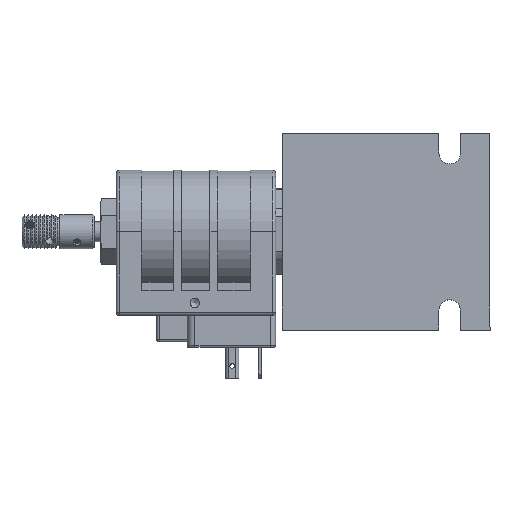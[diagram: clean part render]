
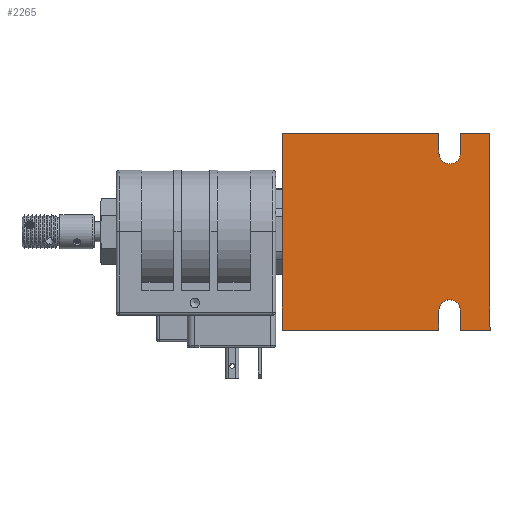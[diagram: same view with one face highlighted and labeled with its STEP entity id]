
A CAD part, top view. The second image highlights one B-rep face of the part: STEP entity #2265.
In plain terms, the highlighted planar face has unit normal (0, 0, 1) as drawn and (0, 1, 0) by its records, which use the part's own axes.
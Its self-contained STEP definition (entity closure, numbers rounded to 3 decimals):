
#2265 = ADVANCED_FACE( '', ( #4923 ), #4924, .F. );
#4923 = FACE_OUTER_BOUND( '', #8223, .T. );
#4924 = PLANE( '', #8224 );
#8223 = EDGE_LOOP( '', ( #14010, #14011, #14012, #14013, #14014, #14015, #14016, #14017, #14018, #14019, #14020, #14021 ) );
#8224 = AXIS2_PLACEMENT_3D( '', #14022, #14023, #14024 );
#14010 = ORIENTED_EDGE( '', *, *, #20921, .T. );
#14011 = ORIENTED_EDGE( '', *, *, #20922, .T. );
#14012 = ORIENTED_EDGE( '', *, *, #20733, .T. );
#14013 = ORIENTED_EDGE( '', *, *, #20923, .T. );
#14014 = ORIENTED_EDGE( '', *, *, #19704, .T. );
#14015 = ORIENTED_EDGE( '', *, *, #20924, .T. );
#14016 = ORIENTED_EDGE( '', *, *, #19305, .T. );
#14017 = ORIENTED_EDGE( '', *, *, #18943, .T. );
#14018 = ORIENTED_EDGE( '', *, *, #20032, .T. );
#14019 = ORIENTED_EDGE( '', *, *, #20925, .T. );
#14020 = ORIENTED_EDGE( '', *, *, #20926, .T. );
#14021 = ORIENTED_EDGE( '', *, *, #20927, .T. );
#14022 = CARTESIAN_POINT( '', ( 57.2, 38.1, -54. ) );
#14023 = DIRECTION( '', ( 0., -1., 0. ) );
#14024 = DIRECTION( '', ( 0., 0., -1. ) );
#18943 = EDGE_CURVE( '', #22180, #22178, #22181, .T. );
#19305 = EDGE_CURVE( '', #22822, #22180, #22823, .T. );
#19704 = EDGE_CURVE( '', #23500, #23498, #23501, .T. );
#20032 = EDGE_CURVE( '', #22178, #24043, #24045, .T. );
#20733 = EDGE_CURVE( '', #25133, #25131, #25134, .T. );
#20921 = EDGE_CURVE( '', #25411, #25412, #25413, .T. );
#20922 = EDGE_CURVE( '', #25412, #25133, #25414, .T. );
#20923 = EDGE_CURVE( '', #25131, #23500, #25415, .T. );
#20924 = EDGE_CURVE( '', #23498, #22822, #25416, .T. );
#20925 = EDGE_CURVE( '', #24043, #25417, #25418, .T. );
#20926 = EDGE_CURVE( '', #25417, #25419, #25420, .T. );
#20927 = EDGE_CURVE( '', #25419, #25411, #25421, .T. );
#22178 = VERTEX_POINT( '', #26968 );
#22180 = VERTEX_POINT( '', #26971 );
#22181 = LINE( '', #26972, #26973 );
#22822 = VERTEX_POINT( '', #28037 );
#22823 = LINE( '', #28038, #28039 );
#23498 = VERTEX_POINT( '', #29345 );
#23500 = VERTEX_POINT( '', #29348 );
#23501 = CIRCLE( '', #29349, 3.5 );
#24043 = VERTEX_POINT( '', #30298 );
#24045 = LINE( '', #30301, #30302 );
#25131 = VERTEX_POINT( '', #32350 );
#25133 = VERTEX_POINT( '', #32353 );
#25134 = LINE( '', #32354, #32355 );
#25411 = VERTEX_POINT( '', #32872 );
#25412 = VERTEX_POINT( '', #32873 );
#25413 = LINE( '', #32874, #32875 );
#25414 = LINE( '', #32876, #32877 );
#25415 = LINE( '', #32878, #32879 );
#25416 = LINE( '', #32880, #32881 );
#25417 = VERTEX_POINT( '', #32882 );
#25418 = LINE( '', #32883, #32884 );
#25419 = VERTEX_POINT( '', #32885 );
#25420 = CIRCLE( '', #32886, 3.5 );
#25421 = LINE( '', #32887, #32888 );
#26968 = CARTESIAN_POINT( '', ( 0., 38.1, -67. ) );
#26971 = CARTESIAN_POINT( '', ( 63.5, 38.1, -67. ) );
#26972 = CARTESIAN_POINT( '', ( 63.5, 38.1, -67. ) );
#26973 = VECTOR( '', #35556, 1000. );
#28037 = CARTESIAN_POINT( '', ( 63.5, 38.1, -57.5 ) );
#28038 = CARTESIAN_POINT( '', ( 63.5, 38.1, -57.5 ) );
#28039 = VECTOR( '', #35850, 1000. );
#29345 = CARTESIAN_POINT( '', ( 57.2, 38.1, -57.5 ) );
#29348 = CARTESIAN_POINT( '', ( 57.2, 38.1, -50.5 ) );
#29349 = AXIS2_PLACEMENT_3D( '', #36189, #36190, #36191 );
#30298 = CARTESIAN_POINT( '', ( 0., 38.1, -57.5 ) );
#30301 = CARTESIAN_POINT( '', ( 0., 38.1, -67. ) );
#30302 = VECTOR( '', #36472, 1000. );
#32350 = CARTESIAN_POINT( '', ( 63.5, 38.1, -50.5 ) );
#32353 = CARTESIAN_POINT( '', ( 63.5, 38.1, 0. ) );
#32354 = CARTESIAN_POINT( '', ( 63.5, 38.1, 0. ) );
#32355 = VECTOR( '', #37041, 1000. );
#32872 = CARTESIAN_POINT( '', ( 0., 38.1, -50.5 ) );
#32873 = CARTESIAN_POINT( '', ( 0., 38.1, 0. ) );
#32874 = CARTESIAN_POINT( '', ( 0., 38.1, -50.5 ) );
#32875 = VECTOR( '', #37121, 1000. );
#32876 = CARTESIAN_POINT( '', ( 0., 38.1, 0. ) );
#32877 = VECTOR( '', #37122, 1000. );
#32878 = CARTESIAN_POINT( '', ( 57.2, 38.1, -50.5 ) );
#32879 = VECTOR( '', #37123, 1000. );
#32880 = CARTESIAN_POINT( '', ( 57.2, 38.1, -57.5 ) );
#32881 = VECTOR( '', #37124, 1000. );
#32882 = CARTESIAN_POINT( '', ( 6.4, 38.1, -57.5 ) );
#32883 = CARTESIAN_POINT( '', ( 6.4, 38.1, -57.5 ) );
#32884 = VECTOR( '', #37125, 1000. );
#32885 = CARTESIAN_POINT( '', ( 6.4, 38.1, -50.5 ) );
#32886 = AXIS2_PLACEMENT_3D( '', #37126, #37127, #37128 );
#32887 = CARTESIAN_POINT( '', ( 6.4, 38.1, -50.5 ) );
#32888 = VECTOR( '', #37129, 1000. );
#35556 = DIRECTION( '', ( -1., 0., 0. ) );
#35850 = DIRECTION( '', ( 0., 0., -1. ) );
#36189 = CARTESIAN_POINT( '', ( 57.2, 38.1, -54. ) );
#36190 = DIRECTION( '', ( 0., -1., 0. ) );
#36191 = DIRECTION( '', ( 1., 0., 0. ) );
#36472 = DIRECTION( '', ( 0., 0., 1. ) );
#37041 = DIRECTION( '', ( 0., 0., -1. ) );
#37121 = DIRECTION( '', ( 0., 0., 1. ) );
#37122 = DIRECTION( '', ( 1., 0., 0. ) );
#37123 = DIRECTION( '', ( -1., 0., 0. ) );
#37124 = DIRECTION( '', ( 1., 0., 0. ) );
#37125 = DIRECTION( '', ( 1., 0., 0. ) );
#37126 = CARTESIAN_POINT( '', ( 6.4, 38.1, -54. ) );
#37127 = DIRECTION( '', ( 0., -1., 0. ) );
#37128 = DIRECTION( '', ( -1., 0., 0. ) );
#37129 = DIRECTION( '', ( -1., 0., 0. ) );
